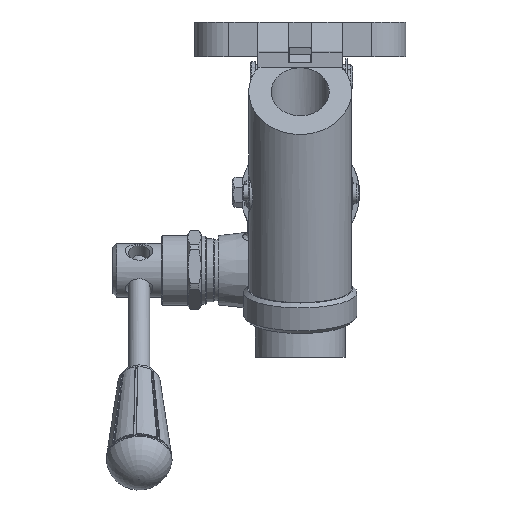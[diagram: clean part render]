
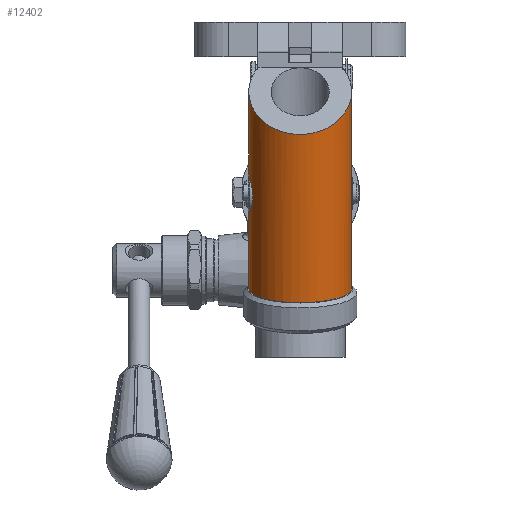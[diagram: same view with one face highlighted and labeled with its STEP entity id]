
A CAD part, top view. The second image highlights one B-rep face of the part: STEP entity #12402.
In plain terms, the highlighted cylindrical face has radius 19.48 mm (diameter 38.961 mm), a partial arc.
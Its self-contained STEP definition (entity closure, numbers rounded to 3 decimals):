
#41=ELLIPSE('',#13509,20.731,19.481);
#42=ELLIPSE('',#13514,20.731,19.481);
#43=ELLIPSE('',#13517,20.731,19.481);
#44=ELLIPSE('',#13520,22.494,19.481);
#45=ELLIPSE('',#13523,20.731,19.481);
#161=B_SPLINE_CURVE_WITH_KNOTS('',3,(#20867,#20868,#20869,#20870,#20871,
#20872),.UNSPECIFIED.,.F.,.F.,(4,1,1,4),(0.039,0.043,
0.045,0.047),.UNSPECIFIED.);
#162=B_SPLINE_CURVE_WITH_KNOTS('',3,(#20874,#20875,#20876,#20877,#20878),
 .UNSPECIFIED.,.F.,.F.,(4,1,4),(0.,0.004,0.009),
 .UNSPECIFIED.);
#163=B_SPLINE_CURVE_WITH_KNOTS('',3,(#20882,#20883,#20884,#20885,#20886),
 .UNSPECIFIED.,.F.,.F.,(4,1,4),(0.032,0.035,0.039),
 .UNSPECIFIED.);
#164=B_SPLINE_CURVE_WITH_KNOTS('',3,(#20888,#20889,#20890,#20891,#20892,
#20893,#20894),.UNSPECIFIED.,.F.,.F.,(4,1,1,1,4),(0.015,0.019,
0.024,0.028,0.032),.UNSPECIFIED.);
#165=B_SPLINE_CURVE_WITH_KNOTS('',3,(#20896,#20897,#20898,#20899,#20900),
 .UNSPECIFIED.,.F.,.F.,(4,1,4),(0.009,0.012,
0.015),.UNSPECIFIED.);
#669=LINE('',#20834,#1233);
#670=LINE('',#20835,#1234);
#674=LINE('',#20845,#1238);
#675=LINE('',#20847,#1239);
#677=LINE('',#20853,#1241);
#678=LINE('',#20857,#1242);
#681=LINE('',#20865,#1245);
#1233=VECTOR('',#16152,1000.);
#1234=VECTOR('',#16153,1000.);
#1238=VECTOR('',#16163,1000.);
#1239=VECTOR('',#16164,1000.);
#1241=VECTOR('',#16172,1000.);
#1242=VECTOR('',#16179,1000.);
#1245=VECTOR('',#16188,1000.);
#1518=CYLINDRICAL_SURFACE('',#13527,19.481);
#3957=ORIENTED_EDGE('',*,*,#5374,.F.);
#3958=ORIENTED_EDGE('',*,*,#5373,.T.);
#3959=ORIENTED_EDGE('',*,*,#5370,.T.);
#3960=ORIENTED_EDGE('',*,*,#5369,.T.);
#3961=ORIENTED_EDGE('',*,*,#5368,.F.);
#3962=ORIENTED_EDGE('',*,*,#5366,.T.);
#3963=ORIENTED_EDGE('',*,*,#5365,.F.);
#3964=ORIENTED_EDGE('',*,*,#5375,.F.);
#3965=ORIENTED_EDGE('',*,*,#5378,.F.);
#3966=ORIENTED_EDGE('',*,*,#5379,.F.);
#3967=ORIENTED_EDGE('',*,*,#5380,.F.);
#3968=ORIENTED_EDGE('',*,*,#5376,.F.);
#3969=ORIENTED_EDGE('',*,*,#5364,.F.);
#3970=ORIENTED_EDGE('',*,*,#5362,.F.);
#3971=ORIENTED_EDGE('',*,*,#5359,.T.);
#3972=ORIENTED_EDGE('',*,*,#5356,.T.);
#3973=ORIENTED_EDGE('',*,*,#5358,.T.);
#3974=ORIENTED_EDGE('',*,*,#5354,.F.);
#5354=EDGE_CURVE('',#6302,#6303,#41,.T.);
#5356=EDGE_CURVE('',#6304,#6305,#6905,.T.);
#5358=EDGE_CURVE('',#6305,#6303,#669,.F.);
#5359=EDGE_CURVE('',#6306,#6304,#670,.T.);
#5362=EDGE_CURVE('',#6306,#6307,#42,.T.);
#5364=EDGE_CURVE('',#6307,#6309,#674,.F.);
#5365=EDGE_CURVE('',#6309,#6308,#675,.F.);
#5366=EDGE_CURVE('',#6310,#6308,#43,.T.);
#5368=EDGE_CURVE('',#6310,#6283,#677,.F.);
#5369=EDGE_CURVE('',#6284,#6283,#44,.T.);
#5370=EDGE_CURVE('',#6311,#6284,#678,.F.);
#5373=EDGE_CURVE('',#6312,#6311,#45,.T.);
#5374=EDGE_CURVE('',#6312,#6302,#681,.T.);
#5375=EDGE_CURVE('',#6313,#6309,#161,.T.);
#5376=EDGE_CURVE('',#6309,#6314,#162,.T.);
#5378=EDGE_CURVE('',#6315,#6313,#163,.T.);
#5379=EDGE_CURVE('',#6316,#6315,#164,.T.);
#5380=EDGE_CURVE('',#6314,#6316,#165,.T.);
#6283=VERTEX_POINT('',#20765);
#6284=VERTEX_POINT('',#20767);
#6302=VERTEX_POINT('',#20824);
#6303=VERTEX_POINT('',#20826);
#6304=VERTEX_POINT('',#20830);
#6305=VERTEX_POINT('',#20831);
#6306=VERTEX_POINT('',#20836);
#6307=VERTEX_POINT('',#20840);
#6308=VERTEX_POINT('',#20844);
#6309=VERTEX_POINT('',#20846);
#6310=VERTEX_POINT('',#20850);
#6311=VERTEX_POINT('',#20858);
#6312=VERTEX_POINT('',#20862);
#6313=VERTEX_POINT('',#20873);
#6314=VERTEX_POINT('',#20879);
#6315=VERTEX_POINT('',#20887);
#6316=VERTEX_POINT('',#20895);
#6905=CIRCLE('',#13511,19.481);
#7761=EDGE_LOOP('',(#3957,#3958,#3959,#3960,#3961,#3962,#3963,#3964,#3965,
#3966,#3967,#3968,#3969,#3970,#3971,#3972,#3973,#3974));
#8662=FACE_BOUND('',#7761,.T.);
#12402=ADVANCED_FACE('',(#8662),#1518,.T.);
#13509=AXIS2_PLACEMENT_3D('',#20825,#16142,#16143);
#13511=AXIS2_PLACEMENT_3D('',#20829,#16147,#16148);
#13514=AXIS2_PLACEMENT_3D('',#20841,#16158,#16159);
#13517=AXIS2_PLACEMENT_3D('',#20849,#16167,#16168);
#13520=AXIS2_PLACEMENT_3D('',#20855,#16175,#16176);
#13523=AXIS2_PLACEMENT_3D('',#20863,#16184,#16185);
#13527=AXIS2_PLACEMENT_3D('',#20881,#16193,#16194);
#16142=DIRECTION('',(0.,0.81,0.587));
#16143=DIRECTION('',(0.,-0.587,0.81));
#16147=DIRECTION('',(0.,0.962,0.274));
#16148=DIRECTION('',(0.,-0.274,0.962));
#16152=DIRECTION('',(0.,-0.962,-0.274));
#16153=DIRECTION('',(0.,-0.962,-0.274));
#16158=DIRECTION('',(0.,0.81,0.587));
#16159=DIRECTION('',(0.,-0.587,0.81));
#16163=DIRECTION('',(0.,-0.962,-0.274));
#16164=DIRECTION('',(0.,-0.962,-0.274));
#16167=DIRECTION('',(0.,0.997,-0.071));
#16168=DIRECTION('',(0.,-0.071,-0.997));
#16172=DIRECTION('',(0.,-0.962,-0.274));
#16175=DIRECTION('',(0.,-0.696,-0.718));
#16176=DIRECTION('',(0.,-0.718,0.696));
#16179=DIRECTION('',(0.,-0.962,-0.274));
#16184=DIRECTION('',(0.,0.997,-0.071));
#16185=DIRECTION('',(0.,-0.071,-0.997));
#16188=DIRECTION('',(0.,-0.962,-0.274));
#16193=DIRECTION('',(0.,-0.962,-0.274));
#16194=DIRECTION('',(0.,0.274,-0.962));
#20765=CARTESIAN_POINT('',(-15.984,47.607,233.026));
#20767=CARTESIAN_POINT('',(15.984,47.607,233.026));
#20824=CARTESIAN_POINT('',(17.982,-33.007,213.819));
#20825=CARTESIAN_POINT('',(0.,-37.685,220.276));
#20826=CARTESIAN_POINT('',(7.492,-26.459,204.779));
#20829=CARTESIAN_POINT('',(0.,-36.144,220.716));
#20830=CARTESIAN_POINT('',(-7.493,-31.212,203.423));
#20831=CARTESIAN_POINT('',(7.492,-31.212,203.423));
#20834=CARTESIAN_POINT('',(7.492,49.485,226.443));
#20835=CARTESIAN_POINT('',(-7.493,49.485,226.443));
#20836=CARTESIAN_POINT('',(-7.493,-26.459,204.779));
#20840=CARTESIAN_POINT('',(-17.982,-33.007,213.819));
#20841=CARTESIAN_POINT('',(0.,-37.685,220.276));
#20844=CARTESIAN_POINT('',(-17.982,16.232,227.865));
#20845=CARTESIAN_POINT('',(-17.982,46.608,236.53));
#20846=CARTESIAN_POINT('',(-17.982,2.417,223.924));
#20847=CARTESIAN_POINT('',(-17.982,46.608,236.53));
#20849=CARTESIAN_POINT('',(0.,16.799,235.818));
#20850=CARTESIAN_POINT('',(-15.984,15.956,223.998));
#20853=CARTESIAN_POINT('',(-15.984,47.607,233.026));
#20855=CARTESIAN_POINT('',(0.,38.37,241.971));
#20857=CARTESIAN_POINT('',(15.984,47.607,233.026));
#20858=CARTESIAN_POINT('',(15.984,15.956,223.998));
#20862=CARTESIAN_POINT('',(17.982,16.232,227.865));
#20863=CARTESIAN_POINT('',(0.,16.799,235.818));
#20865=CARTESIAN_POINT('',(17.982,46.608,236.53));
#20867=CARTESIAN_POINT('',(-19.231,7.77,230.009));
#20868=CARTESIAN_POINT('',(-19.021,7.556,228.598));
#20869=CARTESIAN_POINT('',(-18.538,6.626,226.596));
#20870=CARTESIAN_POINT('',(-18.071,4.427,224.715));
#20871=CARTESIAN_POINT('',(-17.982,3.118,224.124));
#20872=CARTESIAN_POINT('',(-17.982,2.417,223.924));
#20873=CARTESIAN_POINT('',(-19.231,7.77,230.009));
#20874=CARTESIAN_POINT('',(-17.982,2.417,223.924));
#20875=CARTESIAN_POINT('',(-17.982,1.014,223.524));
#20876=CARTESIAN_POINT('',(-18.372,-1.949,223.57));
#20877=CARTESIAN_POINT('',(-19.022,-4.42,225.188));
#20878=CARTESIAN_POINT('',(-19.231,-5.341,226.269));
#20879=CARTESIAN_POINT('',(-19.231,-5.341,226.269));
#20881=CARTESIAN_POINT('',(0.,44.553,243.735));
#20882=CARTESIAN_POINT('',(-19.231,6.064,235.989));
#20883=CARTESIAN_POINT('',(-19.388,6.757,235.176));
#20884=CARTESIAN_POINT('',(-19.574,7.79,233.252));
#20885=CARTESIAN_POINT('',(-19.387,7.928,231.057));
#20886=CARTESIAN_POINT('',(-19.231,7.77,230.009));
#20887=CARTESIAN_POINT('',(-19.231,6.064,235.989));
#20888=CARTESIAN_POINT('',(-19.231,-7.047,232.249));
#20889=CARTESIAN_POINT('',(-19.02,-6.832,233.669));
#20890=CARTESIAN_POINT('',(-18.374,-5.603,236.316));
#20891=CARTESIAN_POINT('',(-17.786,-1.82,238.749));
#20892=CARTESIAN_POINT('',(-18.373,2.692,238.684));
#20893=CARTESIAN_POINT('',(-19.019,5.131,237.084));
#20894=CARTESIAN_POINT('',(-19.231,6.064,235.989));
#20895=CARTESIAN_POINT('',(-19.231,-7.047,232.249));
#20896=CARTESIAN_POINT('',(-19.231,-5.341,226.269));
#20897=CARTESIAN_POINT('',(-19.386,-6.025,227.072));
#20898=CARTESIAN_POINT('',(-19.574,-7.069,229.004));
#20899=CARTESIAN_POINT('',(-19.388,-7.206,231.194));
#20900=CARTESIAN_POINT('',(-19.231,-7.047,232.249));
